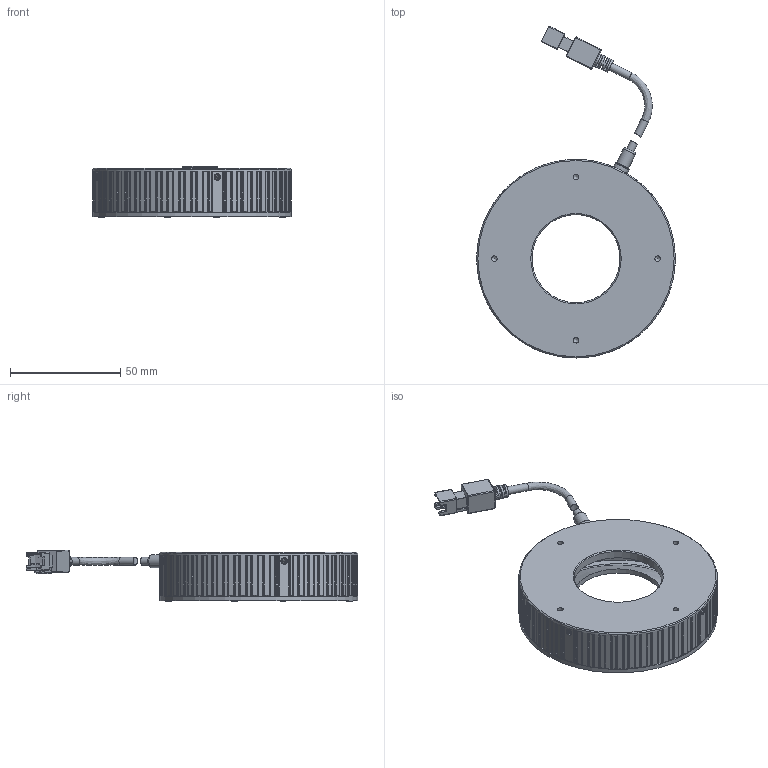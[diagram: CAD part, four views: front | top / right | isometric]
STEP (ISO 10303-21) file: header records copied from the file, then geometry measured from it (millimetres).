
FILE_DESCRIPTION (( 'STEP AP203' ), '1' );
FILE_NAME ('OPT-URI9030-UV-V1.0U.STEP', '2025-02-15T07:50:37', ( '' ), ( '' ), 'SwSTEP 2.0', 'SolidWorks 2016', '' );
FILE_SCHEMA (( 'CONFIG_CONTROL_DESIGN' ));
Length unit declared in the file: millimetre
Products named in the file (1): OPT-URI9030-UV-V1.0U
Bounding box: 90 x 150.52 x 23.4 mm (x, y, z)
Volume: 68839.4 mm3; surface area: 37140.1 mm2
Topology: 8 solids, 8 shells, 842 faces, 2260 edges, 1461 vertices
Faces by surface type: plane 416, cylinder 311, cone 84, bspline 31
Full cylindrical faces by diameter (mm): 1.4 x4, 1.6 x4, 1.8 x4, 2 x4, 2.2 x4, 2.5 x4, 2.6 x4, 3.5 x3, 5 x1, 6 x1, 7 x1, 40 x2, 42 x1, 81.999 x1, 86.1 x1, 90 x2
Entity records: 27568 total; most frequent: CARTESIAN_POINT 7540, ORIENTED_EDGE 4286, DIRECTION 3891, EDGE_CURVE 2143, VERTEX_POINT 1425, AXIS2_PLACEMENT_3D 1402, VECTOR 1087, LINE 1087
